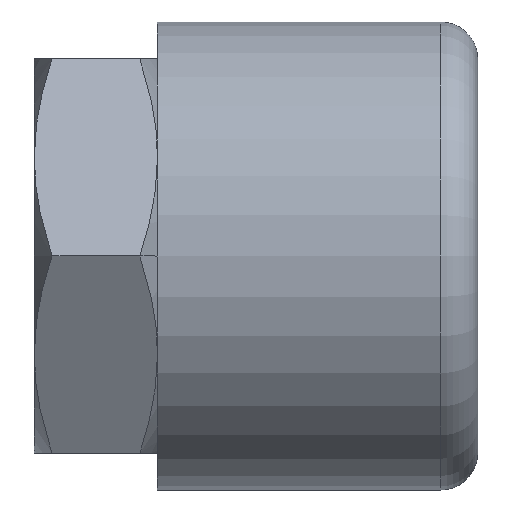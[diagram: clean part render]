
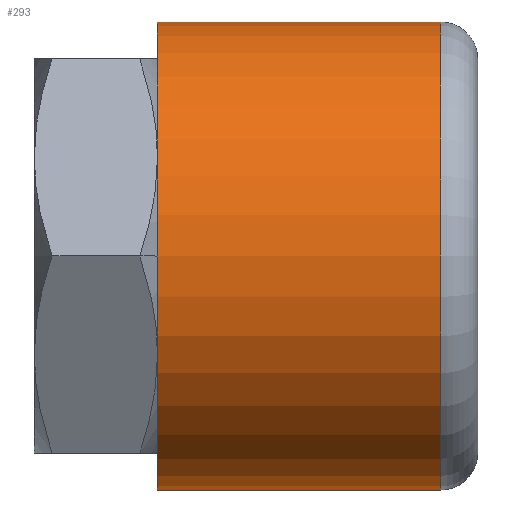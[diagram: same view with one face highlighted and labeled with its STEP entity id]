
A CAD part, left-side view. The second image highlights one B-rep face of the part: STEP entity #293.
In plain terms, the highlighted cylindrical face has radius 9.5 mm (diameter 19 mm), a partial arc.
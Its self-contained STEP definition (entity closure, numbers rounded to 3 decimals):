
#25 = DIRECTION ( 'NONE',  ( 0., 0., -1. ) ) ;
#92 = CARTESIAN_POINT ( 'NONE',  ( 0., 13., 9.5 ) ) ;
#104 = VERTEX_POINT ( 'NONE', #512 ) ;
#117 = VECTOR ( 'NONE', #698, 1000. ) ;
#122 = VERTEX_POINT ( 'NONE', #450 ) ;
#131 = LINE ( 'NONE', #1184, #117 ) ;
#156 = CYLINDRICAL_SURFACE ( 'NONE', #626, 9.5 ) ;
#157 = EDGE_CURVE ( 'NONE', #122, #1231, #239, .T. ) ;
#175 = CARTESIAN_POINT ( 'NONE',  ( 0., 1.5, 0. ) ) ;
#239 = CIRCLE ( 'NONE', #947, 9.5 ) ;
#267 = ORIENTED_EDGE ( 'NONE', *, *, #969, .F. ) ;
#281 = VECTOR ( 'NONE', #1151, 1000. ) ;
#287 = ORIENTED_EDGE ( 'NONE', *, *, #1029, .T. ) ;
#293 = ADVANCED_FACE ( 'NONE', ( #817 ), #156, .T. ) ;
#363 = DIRECTION ( 'NONE',  ( 0., 0., -1. ) ) ;
#365 = CARTESIAN_POINT ( 'NONE',  ( 0., 0., 9.5 ) ) ;
#398 = CIRCLE ( 'NONE', #1140, 9.5 ) ;
#450 = CARTESIAN_POINT ( 'NONE',  ( 0., 1.5, -9.5 ) ) ;
#494 = EDGE_LOOP ( 'NONE', ( #267, #287, #736, #1053 ) ) ;
#512 = CARTESIAN_POINT ( 'NONE',  ( 0., 13., -9.5 ) ) ;
#555 = CARTESIAN_POINT ( 'NONE',  ( 0., 13., 0. ) ) ;
#618 = CARTESIAN_POINT ( 'NONE',  ( 0., 0., 0. ) ) ;
#626 = AXIS2_PLACEMENT_3D ( 'NONE', #618, #1217, #637 ) ;
#637 = DIRECTION ( 'NONE',  ( 0., 0., -1. ) ) ;
#687 = CARTESIAN_POINT ( 'NONE',  ( 0., 1.5, 9.5 ) ) ;
#698 = DIRECTION ( 'NONE',  ( 0., -1., 0. ) ) ;
#736 = ORIENTED_EDGE ( 'NONE', *, *, #1067, .T. ) ;
#763 = LINE ( 'NONE', #365, #281 ) ;
#817 = FACE_OUTER_BOUND ( 'NONE', #494, .T. ) ;
#857 = VERTEX_POINT ( 'NONE', #92 ) ;
#947 = AXIS2_PLACEMENT_3D ( 'NONE', #175, #1149, #363 ) ;
#958 = DIRECTION ( 'NONE',  ( 0., -1., 0. ) ) ;
#969 = EDGE_CURVE ( 'NONE', #857, #1231, #763, .T. ) ;
#1029 = EDGE_CURVE ( 'NONE', #857, #104, #398, .T. ) ;
#1053 = ORIENTED_EDGE ( 'NONE', *, *, #157, .T. ) ;
#1067 = EDGE_CURVE ( 'NONE', #104, #122, #131, .T. ) ;
#1140 = AXIS2_PLACEMENT_3D ( 'NONE', #555, #958, #25 ) ;
#1149 = DIRECTION ( 'NONE',  ( 0., 1., 0. ) ) ;
#1151 = DIRECTION ( 'NONE',  ( 0., -1., 0. ) ) ;
#1184 = CARTESIAN_POINT ( 'NONE',  ( 0., 0., -9.5 ) ) ;
#1217 = DIRECTION ( 'NONE',  ( 0., -1., 0. ) ) ;
#1231 = VERTEX_POINT ( 'NONE', #687 ) ;
